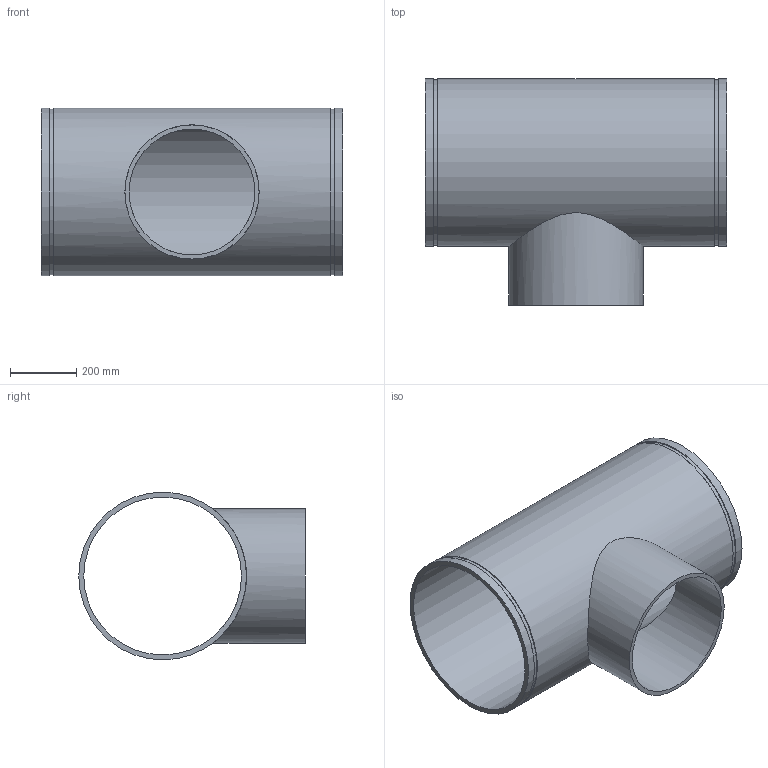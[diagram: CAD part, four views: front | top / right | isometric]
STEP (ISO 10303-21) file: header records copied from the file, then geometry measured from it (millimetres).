
FILE_DESCRIPTION(/* description */ ('VIC REDUCING TEE No 29T FFT (OGSxMPT)','CAx-IF Rec.Pracs.---Representation and Presentation of Product Manufacturing Information (PMI)---4.0---2014-10-13'),/* implementation_level */ '2;1');
FILE_NAME(/* name */ 'C:\Users\kkamble\AppData\Roaming\Autodesk\ApplicationPlugins\Back Up\Victaulic_IPS_Tee Reducing_No 29T FFT (OGSxMPT)\Victaulic_IPS_Tee Reducing_No 29T FFT (OGSxMPT)_20.0x16.0 (500x400).stp',/* time_stamp */ '2020-09-16T22:40:36+05:00',/* author */ ('CORINNE GRAY'),/* organization */ ('Victaulic'),/* preprocessor_version */ 'ST-DEVELOPER v17.2',/* originating_system */ 'Autodesk Inventor 2019',/* authorisation */ '');
FILE_SCHEMA (('AP242_MANAGED_MODEL_BASED_3D_ENGINEERING_MIM_LF { 1 0 10303 442 1 1 4 }'));
Length unit declared in the file: inch
Products named in the file (1): 29 FFT-20.0x16.0
Bounding box: 914.4 x 685.8 x 508 mm (x, y, z)
Volume: 22811118 mm3; surface area: 3213089.4 mm2
Topology: 1 solids, 1 shells, 15 faces, 32 edges, 24 vertices
Faces by surface type: cylinder 8, plane 7
Full cylindrical faces by diameter (mm): 381 x1, 406.4 x1, 477.876 x1, 502.437 x2, 508 x3
Entity records: 765 total; most frequent: CARTESIAN_POINT 277, DIRECTION 106, ORIENTED_EDGE 64, AXIS2_PLACEMENT_3D 49, EDGE_CURVE 32, EDGE_LOOP 24, VERTEX_POINT 24, CIRCLE 20
